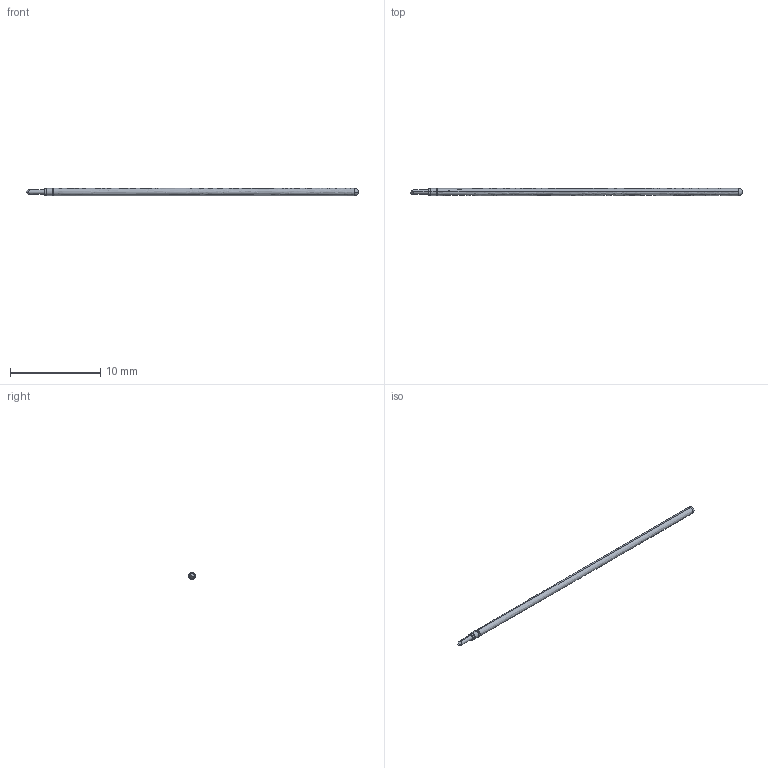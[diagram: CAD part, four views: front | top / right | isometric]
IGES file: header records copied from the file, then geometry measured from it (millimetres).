
Start section: SolidWorks IGES file using analytic representation for surfaces
Global section: file name: L:\probe solid model mockups\Solidworks models\POGO-72T20 Full.IGS; native system: SolidWorks 2006 by SolidWorks Corporation; preprocessor: SolidWorks 2006 by SolidWorks Corporation; author: Ksnyder; date: 071211.140038; units: inch
Bounding box: 36.83 x 0.79 x 0.79 mm (x, y, z)
Surface area: 172.1 mm2
Topology: 1 solids, 1 shells, 21 faces, 46 edges, 26 vertices
Faces by surface type: revolution 16, plane 5
